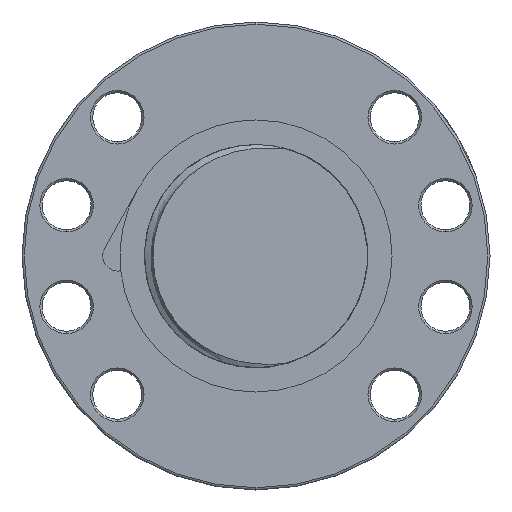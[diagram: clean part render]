
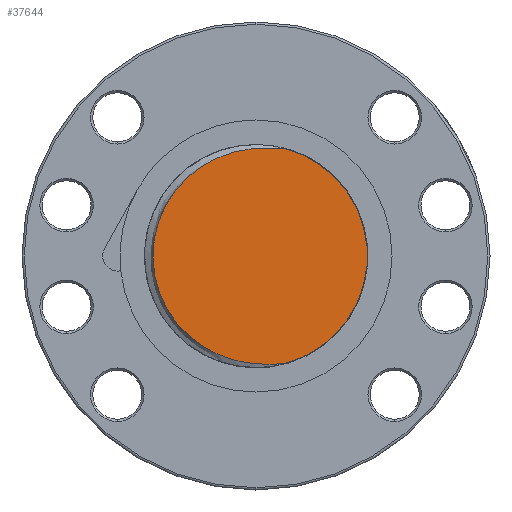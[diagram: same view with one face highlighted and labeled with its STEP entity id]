
A CAD part, left-side view. The second image highlights one B-rep face of the part: STEP entity #37644.
In plain terms, the highlighted planar face has unit normal (-1, 0, 0).
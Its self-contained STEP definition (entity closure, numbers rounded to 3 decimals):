
#856 = DIRECTION ( 'NONE',  ( 0., 1., 0. ) ) ;
#857 = DIRECTION ( 'NONE',  ( 1., 0., 0. ) ) ;
#858 = CARTESIAN_POINT ( 'NONE',  ( -168., 0., 0. ) ) ;
#859 = AXIS2_PLACEMENT_3D ( 'NONE', #858, #857, #856 ) ;
#920 = CIRCLE ( 'NONE', #859, 25. ) ;
#37470 = VERTEX_POINT ( 'NONE', #41392 ) ;
#37473 = VERTEX_POINT ( 'NONE', #41417 ) ;
#37621 = EDGE_LOOP ( 'NONE', ( #37645, #37646 ) ) ;
#37644 = ADVANCED_FACE ( 'NONE', ( #43901 ), #43896, .F. ) ;
#37645 = ORIENTED_EDGE ( 'NONE', *, *, #37804, .F. ) ;
#37646 = ORIENTED_EDGE ( 'NONE', *, *, #37647, .T. ) ;
#37647 = EDGE_CURVE ( 'NONE', #37473, #37470, #43890, .T. ) ;
#37804 = EDGE_CURVE ( 'NONE', #37473, #37470, #920, .T. ) ;
#41392 = CARTESIAN_POINT ( 'NONE',  ( -168., -6.424, -24.161 ) ) ;
#41417 = CARTESIAN_POINT ( 'NONE',  ( -168., -6.427, 24.16 ) ) ;
#43814 = CARTESIAN_POINT ( 'NONE',  ( -168., -6.424, -24.161 ) ) ;
#43815 = CARTESIAN_POINT ( 'NONE',  ( -168., -5.971, -24.173 ) ) ;
#43816 = CARTESIAN_POINT ( 'NONE',  ( -168., -5.519, -24.201 ) ) ;
#43817 = CARTESIAN_POINT ( 'NONE',  ( -168., -4.614, -24.249 ) ) ;
#43818 = CARTESIAN_POINT ( 'NONE',  ( -168., -4.161, -24.27 ) ) ;
#43819 = CARTESIAN_POINT ( 'NONE',  ( -168., -2.803, -24.311 ) ) ;
#43820 = CARTESIAN_POINT ( 'NONE',  ( -168., -1.897, -24.31 ) ) ;
#43821 = CARTESIAN_POINT ( 'NONE',  ( -168., -0.085, -24.224 ) ) ;
#43822 = CARTESIAN_POINT ( 'NONE',  ( -168., 0.818, -24.14 ) ) ;
#43823 = CARTESIAN_POINT ( 'NONE',  ( -168., 2.6, -23.887 ) ) ;
#43824 = CARTESIAN_POINT ( 'NONE',  ( -168., 3.48, -23.716 ) ) ;
#43825 = CARTESIAN_POINT ( 'NONE',  ( -168., 5.221, -23.287 ) ) ;
#43826 = CARTESIAN_POINT ( 'NONE',  ( -168., 6.082, -23.027 ) ) ;
#43827 = CARTESIAN_POINT ( 'NONE',  ( -168., 7.781, -22.415 ) ) ;
#43828 = CARTESIAN_POINT ( 'NONE',  ( -168., 8.622, -22.061 ) ) ;
#43829 = CARTESIAN_POINT ( 'NONE',  ( -168., 10.248, -21.27 ) ) ;
#43830 = CARTESIAN_POINT ( 'NONE',  ( -168., 11.036, -20.831 ) ) ;
#43831 = CARTESIAN_POINT ( 'NONE',  ( -168., 12.182, -20.11 ) ) ;
#43832 = CARTESIAN_POINT ( 'NONE',  ( -168., 12.558, -19.858 ) ) ;
#43833 = CARTESIAN_POINT ( 'NONE',  ( -168., 13.297, -19.334 ) ) ;
#43834 = CARTESIAN_POINT ( 'NONE',  ( -168., 13.661, -19.061 ) ) ;
#43835 = CARTESIAN_POINT ( 'NONE',  ( -168., 15.435, -17.65 ) ) ;
#43836 = CARTESIAN_POINT ( 'NONE',  ( -168., 16.707, -16.384 ) ) ;
#43837 = CARTESIAN_POINT ( 'NONE',  ( -168., 18.115, -14.629 ) ) ;
#43838 = CARTESIAN_POINT ( 'NONE',  ( -168., 18.388, -14.27 ) ) ;
#43839 = CARTESIAN_POINT ( 'NONE',  ( -168., 18.914, -13.534 ) ) ;
#43840 = CARTESIAN_POINT ( 'NONE',  ( -168., 19.168, -13.156 ) ) ;
#43841 = CARTESIAN_POINT ( 'NONE',  ( -168., 19.896, -12.007 ) ) ;
#43842 = CARTESIAN_POINT ( 'NONE',  ( -168., 20.333, -11.22 ) ) ;
#43843 = CARTESIAN_POINT ( 'NONE',  ( -168., 21.117, -9.605 ) ) ;
#43844 = CARTESIAN_POINT ( 'NONE',  ( -168., 21.462, -8.777 ) ) ;
#43845 = CARTESIAN_POINT ( 'NONE',  ( -168., 21.91, -7.504 ) ) ;
#43846 = CARTESIAN_POINT ( 'NONE',  ( -168., 22.048, -7.074 ) ) ;
#43847 = CARTESIAN_POINT ( 'NONE',  ( -168., 22.3, -6.205 ) ) ;
#43848 = CARTESIAN_POINT ( 'NONE',  ( -168., 22.415, -5.764 ) ) ;
#43849 = CARTESIAN_POINT ( 'NONE',  ( -168., 22.921, -3.556 ) ) ;
#43850 = CARTESIAN_POINT ( 'NONE',  ( -168., 23.121, -1.773 ) ) ;
#43851 = CARTESIAN_POINT ( 'NONE',  ( -168., 23.118, 0.477 ) ) ;
#43852 = CARTESIAN_POINT ( 'NONE',  ( -168., 23.104, 0.928 ) ) ;
#43853 = CARTESIAN_POINT ( 'NONE',  ( -168., 23.052, 1.832 ) ) ;
#43854 = CARTESIAN_POINT ( 'NONE',  ( -168., 23.013, 2.286 ) ) ;
#43855 = CARTESIAN_POINT ( 'NONE',  ( -168., 22.857, 3.636 ) ) ;
#43856 = CARTESIAN_POINT ( 'NONE',  ( -168., 22.703, 4.522 ) ) ;
#43857 = CARTESIAN_POINT ( 'NONE',  ( -168., 22.297, 6.27 ) ) ;
#43858 = CARTESIAN_POINT ( 'NONE',  ( -168., 22.045, 7.13 ) ) ;
#43859 = CARTESIAN_POINT ( 'NONE',  ( -168., 21.593, 8.402 ) ) ;
#43860 = CARTESIAN_POINT ( 'NONE',  ( -168., 21.43, 8.823 ) ) ;
#43861 = CARTESIAN_POINT ( 'NONE',  ( -168., 21.079, 9.657 ) ) ;
#43862 = CARTESIAN_POINT ( 'NONE',  ( -168., 20.891, 10.073 ) ) ;
#43863 = CARTESIAN_POINT ( 'NONE',  ( -168., 19.897, 12.107 ) ) ;
#43864 = CARTESIAN_POINT ( 'NONE',  ( -168., 18.932, 13.618 ) ) ;
#43865 = CARTESIAN_POINT ( 'NONE',  ( -168., 17.521, 15.367 ) ) ;
#43866 = CARTESIAN_POINT ( 'NONE',  ( -168., 17.229, 15.71 ) ) ;
#43867 = CARTESIAN_POINT ( 'NONE',  ( -168., 16.623, 16.381 ) ) ;
#43868 = CARTESIAN_POINT ( 'NONE',  ( -168., 16.308, 16.71 ) ) ;
#43869 = CARTESIAN_POINT ( 'NONE',  ( -168., 15.342, 17.667 ) ) ;
#43870 = CARTESIAN_POINT ( 'NONE',  ( -168., 14.668, 18.263 ) ) ;
#43871 = CARTESIAN_POINT ( 'NONE',  ( -168., 12.561, 19.931 ) ) ;
#43872 = CARTESIAN_POINT ( 'NONE',  ( -168., 11.044, 20.883 ) ) ;
#43873 = CARTESIAN_POINT ( 'NONE',  ( -168., 9.006, 21.874 ) ) ;
#43874 = CARTESIAN_POINT ( 'NONE',  ( -168., 8.591, 22.061 ) ) ;
#43875 = CARTESIAN_POINT ( 'NONE',  ( -168., 7.758, 22.412 ) ) ;
#43876 = CARTESIAN_POINT ( 'NONE',  ( -168., 7.339, 22.576 ) ) ;
#43877 = CARTESIAN_POINT ( 'NONE',  ( -168., 6.071, 23.032 ) ) ;
#43878 = CARTESIAN_POINT ( 'NONE',  ( -168., 5.213, 23.289 ) ) ;
#43879 = CARTESIAN_POINT ( 'NONE',  ( -168., 3.475, 23.717 ) ) ;
#43880 = CARTESIAN_POINT ( 'NONE',  ( -168., 2.594, 23.887 ) ) ;
#43881 = CARTESIAN_POINT ( 'NONE',  ( -168., 0.81, 24.141 ) ) ;
#43882 = CARTESIAN_POINT ( 'NONE',  ( -168., -0.097, 24.225 ) ) ;
#43883 = CARTESIAN_POINT ( 'NONE',  ( -168., -1.905, 24.311 ) ) ;
#43884 = CARTESIAN_POINT ( 'NONE',  ( -168., -2.81, 24.312 ) ) ;
#43885 = CARTESIAN_POINT ( 'NONE',  ( -168., -4.166, 24.27 ) ) ;
#43886 = CARTESIAN_POINT ( 'NONE',  ( -168., -4.618, 24.248 ) ) ;
#43887 = CARTESIAN_POINT ( 'NONE',  ( -168., -5.523, 24.2 ) ) ;
#43888 = CARTESIAN_POINT ( 'NONE',  ( -168., -5.975, 24.172 ) ) ;
#43889 = CARTESIAN_POINT ( 'NONE',  ( -168., -6.427, 24.16 ) ) ;
#43890 = B_SPLINE_CURVE_WITH_KNOTS ( 'NONE', 3,
 ( #43889, #43888, #43887, #43886, #43885, #43884, #43883, #43882, #43881, #43880, #43879, #43878, #43877, #43876, #43875, #43874, #43873, #43872, #43871, #43870, #43869, #43868, #43867, #43866, #43865, #43864, #43863, #43862, #43861, #43860, #43859, #43858, #43857, #43856, #43855, #43854, #43853, #43852, #43851, #43850, #43849, #43848, #43847, #43846, #43845, #43844, #43843, #43842, #43841, #43840, #43839, #43838, #43837, #43836, #43835, #43834, #43833, #43832, #43831, #43830, #43829, #43828, #43827, #43826, #43825, #43824, #43823, #43822, #43821, #43820, #43819, #43818, #43817, #43816, #43815, #43814 ),
 .UNSPECIFIED., .F., .F.,
 ( 4, 2, 2, 2, 2, 2, 2, 2, 2, 2, 2, 2, 2, 2, 2, 2, 2, 2, 2, 2, 2, 2, 2, 2, 2, 2, 2, 2, 2, 2, 2, 2, 2, 2, 2, 2, 2, 4 ),
 ( 0.003, 0.004, 0.006, 0.008, 0.011, 0.014, 0.016, 0.018, 0.019, 0.025, 0.027, 0.029, 0.03, 0.036, 0.037, 0.038, 0.041, 0.044, 0.045, 0.047, 0.052, 0.053, 0.055, 0.057, 0.06, 0.062, 0.063, 0.068, 0.07, 0.071, 0.074, 0.077, 0.079, 0.082, 0.085, 0.088, 0.089, 0.09 ),
 .UNSPECIFIED. ) ;
#43892 = DIRECTION ( 'NONE',  ( 0., 0., -1. ) ) ;
#43893 = DIRECTION ( 'NONE',  ( 1., 0., 0. ) ) ;
#43894 = CARTESIAN_POINT ( 'NONE',  ( -168., 0., 0. ) ) ;
#43895 = AXIS2_PLACEMENT_3D ( 'NONE', #43894, #43893, #43892 ) ;
#43896 = PLANE ( 'NONE',  #43895 ) ;
#43901 = FACE_OUTER_BOUND ( 'NONE', #37621, .T. ) ;
